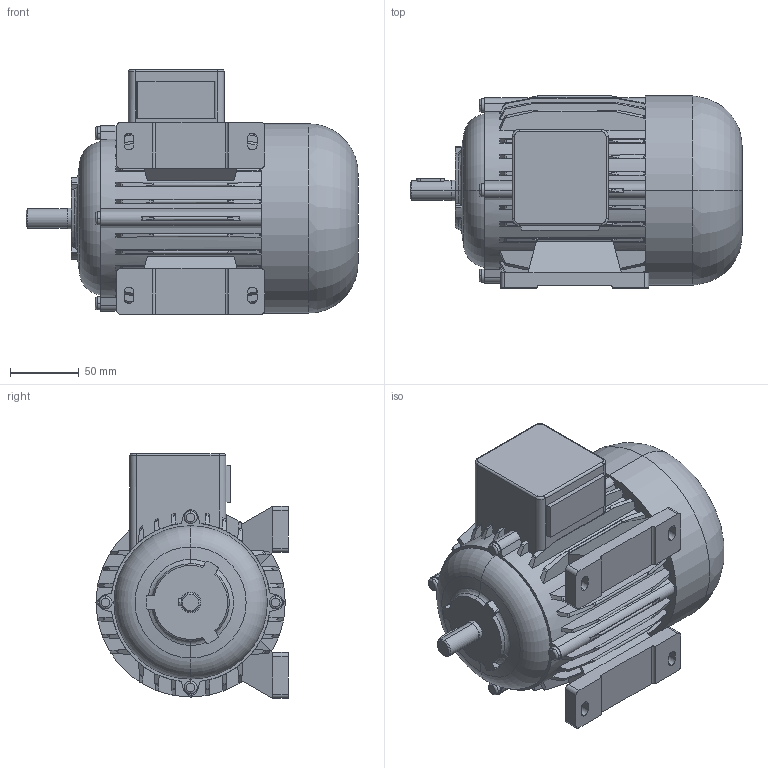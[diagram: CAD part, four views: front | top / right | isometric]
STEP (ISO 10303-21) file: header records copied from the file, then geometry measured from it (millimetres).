
FILE_DESCRIPTION(('OneSpaceDesigner STEP Export'),'2;1');
FILE_NAME('OD7_B3.stp','2008-04-24T11:32:36',(''),(''),'OneSpace Designer STEP processor (Jan. 2003) for AP214(CD)(Solid Model)','OneSpace Designer 12.01D 09-Jul-2004 (C) CoCreate Software GmbH','');
FILE_SCHEMA(('AUTOMOTIVE_DESIGN_CC2 {1 2 10303 214 -1 1 5 1}'));
Length unit declared in the file: millimetre
Products named in the file (2): OD7_B3
Assembly tree (1 placements, depth 2):
  OD7_B3
    OD7_B3
Bounding box: 242 x 140.01 x 178.5 mm (x, y, z)
Volume: 2864942.8 mm3; surface area: 182036.9 mm2
Topology: 1 solids, 1 shells, 452 faces, 1323 edges, 885 vertices
Faces by surface type: plane 149, cylinder 129, cone 105, torus 69
Entity records: 32126 total; most frequent: CARTESIAN_POINT 21735, ORIENTED_EDGE 2646, DIRECTION 1609, EDGE_CURVE 1323, VERTEX_POINT 885, AXIS2_PLACEMENT_3D 573, EDGE_LOOP 472, VECTOR 463
